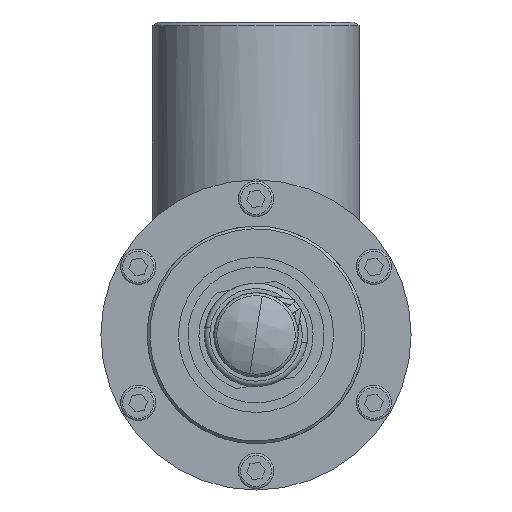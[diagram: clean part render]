
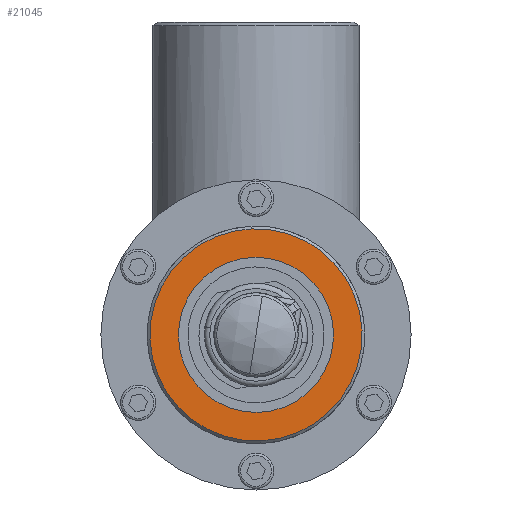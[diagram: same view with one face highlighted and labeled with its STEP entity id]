
A CAD part, front view. The second image highlights one B-rep face of the part: STEP entity #21045.
In plain terms, the highlighted planar face has unit normal (0, -1, 0) as drawn and (0, 1, 0) by its records, which use the part's own axes.
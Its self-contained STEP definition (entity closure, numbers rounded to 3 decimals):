
#1066 = CARTESIAN_POINT ( 'NONE',  ( 0., 145., -25.25 ) ) ;
#1894 = VERTEX_POINT ( 'NONE', #20155 ) ;
#2329 = VERTEX_POINT ( 'NONE', #20626 ) ;
#2758 = EDGE_CURVE ( 'NONE', #2329, #1894, #21168, .T. ) ;
#2801 = CIRCLE ( 'NONE', #2802, 39. ) ;
#2802 = AXIS2_PLACEMENT_3D ( 'NONE', #2803, #2804, #2805 ) ;
#2803 = CARTESIAN_POINT ( 'NONE',  ( 0., 145., 0. ) ) ;
#2804 = DIRECTION ( 'NONE',  ( 0., -1., 0. ) ) ;
#2805 = DIRECTION ( 'NONE',  ( 0., 0., -1. ) ) ;
#19576 = ORIENTED_EDGE ( 'NONE', *, *, #8849, .F. ) ;
#20155 = CARTESIAN_POINT ( 'NONE',  ( 0., 145., 39. ) ) ;
#20282 = CARTESIAN_POINT ( 'NONE',  ( 0., 145., 25.25 ) ) ;
#20559 = CIRCLE ( 'NONE', #20560, 25.25 ) ;
#20560 = AXIS2_PLACEMENT_3D ( 'NONE', #20561, #20562, #20563 ) ;
#20561 = CARTESIAN_POINT ( 'NONE',  ( 0., 145., 0. ) ) ;
#20562 = DIRECTION ( 'NONE',  ( 0., 1., 0. ) ) ;
#20563 = DIRECTION ( 'NONE',  ( 0., 0., 1. ) ) ;
#20580 = EDGE_LOOP ( 'NONE', ( #19576, #8295 ) ) ;
#20626 = CARTESIAN_POINT ( 'NONE',  ( 0., 145., -39. ) ) ;
#21045 = ADVANCED_FACE ( 'NONE', ( #12469, #12470 ), #12471, .T. ) ;
#21168 = CIRCLE ( 'NONE', #21169, 39. ) ;
#21169 = AXIS2_PLACEMENT_3D ( 'NONE', #21170, #21171, #21172 ) ;
#21170 = CARTESIAN_POINT ( 'NONE',  ( 0., 145., 0. ) ) ;
#21171 = DIRECTION ( 'NONE',  ( 0., -1., 0. ) ) ;
#21172 = DIRECTION ( 'NONE',  ( 0., 0., -1. ) ) ;
#6536 = EDGE_CURVE ( 'NONE', #1894, #2329, #2801, .T. ) ;
#6926 = ORIENTED_EDGE ( 'NONE', *, *, #6536, .F. ) ;
#7484 = ORIENTED_EDGE ( 'NONE', *, *, #2758, .F. ) ;
#8030 = EDGE_LOOP ( 'NONE', ( #7484, #6926 ) ) ;
#8295 = ORIENTED_EDGE ( 'NONE', *, *, #14497, .F. ) ;
#8849 = EDGE_CURVE ( 'NONE', #14265, #15437, #10916, .T. ) ;
#10916 = CIRCLE ( 'NONE', #10917, 25.25 ) ;
#10917 = AXIS2_PLACEMENT_3D ( 'NONE', #10918, #10919, #10920 ) ;
#10918 = CARTESIAN_POINT ( 'NONE',  ( 0., 145., 0. ) ) ;
#10919 = DIRECTION ( 'NONE',  ( 0., 1., 0. ) ) ;
#10920 = DIRECTION ( 'NONE',  ( 0., 0., 1. ) ) ;
#12469 = FACE_BOUND ( 'NONE', #20580, .T. ) ;
#12470 = FACE_OUTER_BOUND ( 'NONE', #8030, .T. ) ;
#12471 = PLANE ( 'NONE',  #12472 ) ;
#12472 = AXIS2_PLACEMENT_3D ( 'NONE', #12473, #12474, #12475 ) ;
#12473 = CARTESIAN_POINT ( 'NONE',  ( 0., 145., 0. ) ) ;
#12474 = DIRECTION ( 'NONE',  ( 0., 1., 0. ) ) ;
#12475 = DIRECTION ( 'NONE',  ( 0., 0., 1. ) ) ;
#14265 = VERTEX_POINT ( 'NONE', #20282 ) ;
#14497 = EDGE_CURVE ( 'NONE', #15437, #14265, #20559, .T. ) ;
#15437 = VERTEX_POINT ( 'NONE', #1066 ) ;
